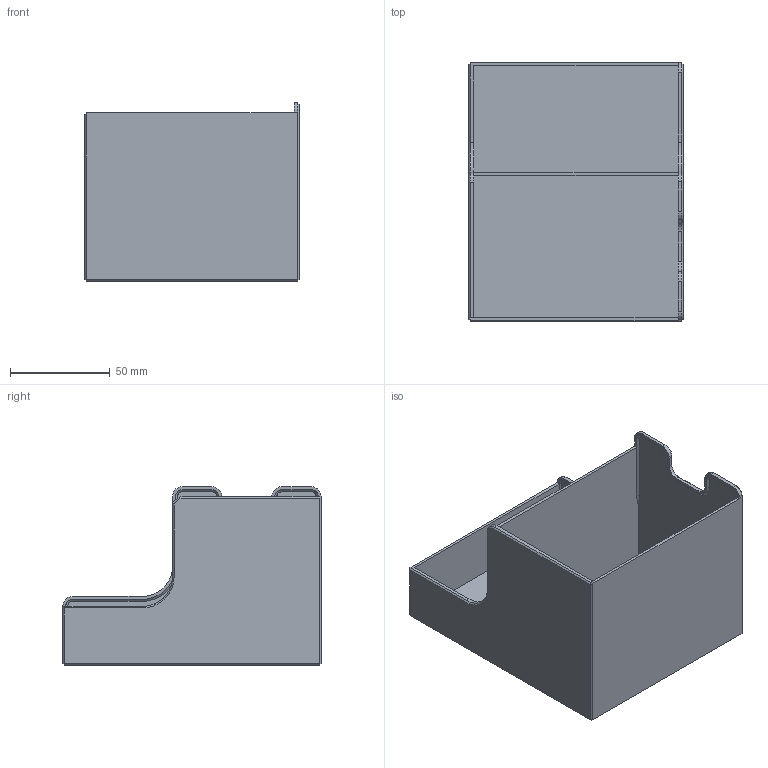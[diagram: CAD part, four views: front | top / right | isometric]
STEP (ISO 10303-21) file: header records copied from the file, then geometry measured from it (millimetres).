
FILE_DESCRIPTION(/* description */ (''),/* implementation_level */ '2;1');
FILE_NAME(/* name */ 'CupBoard v1-drawer1.step',/* time_stamp */ '2024-06-05T21:24:11+02:00',/* author */ (''),/* organization */ (''),/* preprocessor_version */ 'ST-DEVELOPER v20',/* originating_system */ 'Autodesk Translation Framework v13.14.0.145',/* authorisation */ '');
FILE_SCHEMA (('AUTOMOTIVE_DESIGN { 1 0 10303 214 3 1 1 }','AP242_MANAGED_MODEL_BASED_3D_ENGINEERING_MIM_LF { 1 0 10303 442 3 1 4 }'));
Length unit declared in the file: millimetre
Products named in the file (2): CupBoard; Component2
Assembly tree (1 placements, depth 2):
  CupBoard
    Component2
Bounding box: 107.5 x 129.5 x 89.5 mm (x, y, z)
Volume: 74654.1 mm3; surface area: 99322 mm2
Topology: 1 solids, 1 shells, 101 faces, 252 edges, 153 vertices
Faces by surface type: plane 70, cone 19, cylinder 10, bspline 2
Entity records: 3090 total; most frequent: CARTESIAN_POINT 629, ORIENTED_EDGE 504, DIRECTION 493, EDGE_CURVE 252, LINE 193, VECTOR 193, VERTEX_POINT 153, AXIS2_PLACEMENT_3D 150
